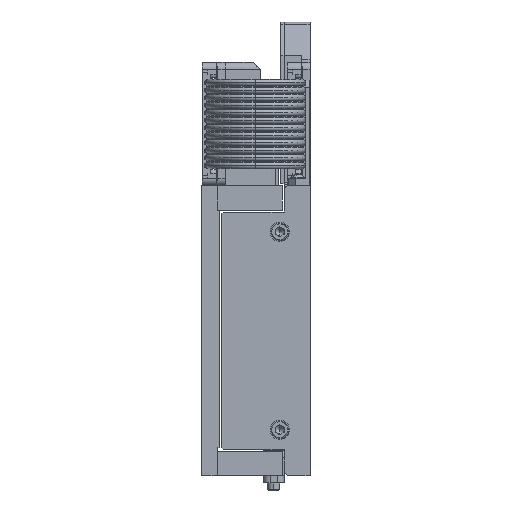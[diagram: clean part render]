
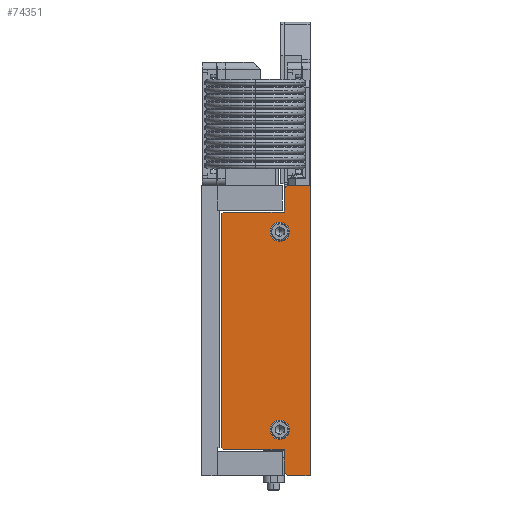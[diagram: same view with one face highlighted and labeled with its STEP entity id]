
A CAD part, left-side view. The second image highlights one B-rep face of the part: STEP entity #74351.
In plain terms, the highlighted planar face has unit normal (-1, 0, 0).
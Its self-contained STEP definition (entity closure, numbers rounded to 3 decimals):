
#707 = CARTESIAN_POINT ( 'NONE',  ( -165., 15., -80.55 ) ) ;
#1051 = EDGE_CURVE ( 'NONE', #23701, #67752, #44940, .T. ) ;
#2860 = CARTESIAN_POINT ( 'NONE',  ( -165., 15., 80.55 ) ) ;
#3076 = VERTEX_POINT ( 'NONE', #111552 ) ;
#4115 = CARTESIAN_POINT ( 'NONE',  ( -165., 13.05, -82.5 ) ) ;
#4374 = LINE ( 'NONE', #2860, #100761 ) ;
#6446 = VECTOR ( 'NONE', #44857, 1000. ) ;
#6923 = CARTESIAN_POINT ( 'NONE',  ( -165., 17.5, -61.75 ) ) ;
#6931 = CARTESIAN_POINT ( 'NONE',  ( -165., 50.5, -66.5 ) ) ;
#6946 = DIRECTION ( 'NONE',  ( -1., 0., 0. ) ) ;
#10214 = ORIENTED_EDGE ( 'NONE', *, *, #95550, .T. ) ;
#10450 = CARTESIAN_POINT ( 'NONE',  ( -165., 0., 0. ) ) ;
#11279 = VECTOR ( 'NONE', #46676, 1000. ) ;
#12798 = DIRECTION ( 'NONE',  ( 0., -0.707, -0.707 ) ) ;
#13213 = CIRCLE ( 'NONE', #20161, 5.5 ) ;
#13731 = EDGE_LOOP ( 'NONE', ( #65224, #106248 ) ) ;
#14161 = VERTEX_POINT ( 'NONE', #58648 ) ;
#15317 = EDGE_CURVE ( 'NONE', #84349, #18123, #27069, .T. ) ;
#16142 = EDGE_LOOP ( 'NONE', ( #10214, #18388, #72839, #93699, #103520, #26671, #83995, #101505, #72241, #16755, #72358, #77679 ) ) ;
#16149 = VERTEX_POINT ( 'NONE', #6923 ) ;
#16239 = CARTESIAN_POINT ( 'NONE',  ( -165., 0.25, -82.5 ) ) ;
#16640 = AXIS2_PLACEMENT_3D ( 'NONE', #10450, #71178, #26471 ) ;
#16755 = ORIENTED_EDGE ( 'NONE', *, *, #66614, .T. ) ;
#17801 = VERTEX_POINT ( 'NONE', #75795 ) ;
#18123 = VERTEX_POINT ( 'NONE', #81709 ) ;
#18388 = ORIENTED_EDGE ( 'NONE', *, *, #75116, .T. ) ;
#19126 = VECTOR ( 'NONE', #94096, 1000. ) ;
#20161 = AXIS2_PLACEMENT_3D ( 'NONE', #33127, #6946, #93911 ) ;
#20751 = EDGE_CURVE ( 'NONE', #56739, #48798, #111192, .T. ) ;
#21845 = LINE ( 'NONE', #16239, #19126 ) ;
#22329 = LINE ( 'NONE', #72948, #48035 ) ;
#22676 = CARTESIAN_POINT ( 'NONE',  ( -165., 15., 80.55 ) ) ;
#23701 = VERTEX_POINT ( 'NONE', #22676 ) ;
#24929 = AXIS2_PLACEMENT_3D ( 'NONE', #88360, #71931, #78858 ) ;
#25510 = DIRECTION ( 'NONE',  ( 0., 0., 1. ) ) ;
#25519 = CIRCLE ( 'NONE', #103224, 5.5 ) ;
#25958 = CIRCLE ( 'NONE', #24929, 5.5 ) ;
#26471 = DIRECTION ( 'NONE',  ( 0., 0., -1. ) ) ;
#26671 = ORIENTED_EDGE ( 'NONE', *, *, #46605, .T. ) ;
#26823 = PLANE ( 'NONE',  #16640 ) ;
#27069 = CIRCLE ( 'NONE', #37507, 5.5 ) ;
#28077 = EDGE_CURVE ( 'NONE', #42207, #68049, #22329, .T. ) ;
#28326 = DIRECTION ( 'NONE',  ( 0., 0.707, -0.707 ) ) ;
#28551 = CARTESIAN_POINT ( 'NONE',  ( -165., 13.05, 82.5 ) ) ;
#30297 = CARTESIAN_POINT ( 'NONE',  ( -165., 13.05, 82.5 ) ) ;
#30325 = VERTEX_POINT ( 'NONE', #34827 ) ;
#30787 = CARTESIAN_POINT ( 'NONE',  ( -165., 17.5, 50.75 ) ) ;
#33127 = CARTESIAN_POINT ( 'NONE',  ( -165., 17.5, -56.25 ) ) ;
#34767 = DIRECTION ( 'NONE',  ( -1., 0., 0. ) ) ;
#34827 = CARTESIAN_POINT ( 'NONE',  ( -165., 0.25, -82.5 ) ) ;
#35009 = EDGE_CURVE ( 'NONE', #18123, #84349, #25958, .T. ) ;
#37507 = AXIS2_PLACEMENT_3D ( 'NONE', #85871, #95768, #25510 ) ;
#38003 = LINE ( 'NONE', #107641, #92442 ) ;
#38369 = CARTESIAN_POINT ( 'NONE',  ( -165., 15., 67.5 ) ) ;
#39974 = FACE_BOUND ( 'NONE', #13731, .T. ) ;
#40109 = LINE ( 'NONE', #85492, #51027 ) ;
#40594 = VECTOR ( 'NONE', #66317, 1000. ) ;
#42207 = VERTEX_POINT ( 'NONE', #97498 ) ;
#44437 = EDGE_CURVE ( 'NONE', #67752, #17801, #40109, .T. ) ;
#44857 = DIRECTION ( 'NONE',  ( 0., 0., 1. ) ) ;
#44940 = LINE ( 'NONE', #77449, #111510 ) ;
#46204 = EDGE_CURVE ( 'NONE', #14161, #87374, #38003, .T. ) ;
#46605 = EDGE_CURVE ( 'NONE', #17801, #56739, #51523, .T. ) ;
#46676 = DIRECTION ( 'NONE',  ( 0., 1., 0. ) ) ;
#47654 = DIRECTION ( 'NONE',  ( 0., -1., 0. ) ) ;
#48035 = VECTOR ( 'NONE', #88988, 1000. ) ;
#48798 = VERTEX_POINT ( 'NONE', #6931 ) ;
#48839 = VERTEX_POINT ( 'NONE', #50536 ) ;
#50096 = VECTOR ( 'NONE', #54413, 1000. ) ;
#50536 = CARTESIAN_POINT ( 'NONE',  ( -165., 17.5, -50.75 ) ) ;
#51027 = VECTOR ( 'NONE', #89653, 1000. ) ;
#51523 = LINE ( 'NONE', #67811, #40594 ) ;
#53939 = EDGE_CURVE ( 'NONE', #48798, #14161, #90406, .T. ) ;
#54413 = DIRECTION ( 'NONE',  ( 0., 0., -1. ) ) ;
#56739 = VERTEX_POINT ( 'NONE', #103789 ) ;
#58648 = CARTESIAN_POINT ( 'NONE',  ( -165., 49.5, -67.5 ) ) ;
#58762 = DIRECTION ( 'NONE',  ( 0., 0., -1. ) ) ;
#60227 = EDGE_CURVE ( 'NONE', #68049, #30325, #21845, .T. ) ;
#60231 = LINE ( 'NONE', #707, #91601 ) ;
#62756 = ORIENTED_EDGE ( 'NONE', *, *, #15317, .F. ) ;
#62779 = EDGE_CURVE ( 'NONE', #48839, #16149, #13213, .T. ) ;
#63124 = FACE_OUTER_BOUND ( 'NONE', #16142, .T. ) ;
#64801 = CARTESIAN_POINT ( 'NONE',  ( -165., 49.5, -67.5 ) ) ;
#65224 = ORIENTED_EDGE ( 'NONE', *, *, #62779, .F. ) ;
#66317 = DIRECTION ( 'NONE',  ( 0., 0.707, -0.707 ) ) ;
#66614 = EDGE_CURVE ( 'NONE', #87374, #42207, #60231, .T. ) ;
#67752 = VERTEX_POINT ( 'NONE', #38369 ) ;
#67811 = CARTESIAN_POINT ( 'NONE',  ( -165., 50.5, 66.5 ) ) ;
#68049 = VERTEX_POINT ( 'NONE', #4115 ) ;
#71178 = DIRECTION ( 'NONE',  ( 1., 0., 0. ) ) ;
#71842 = CARTESIAN_POINT ( 'NONE',  ( -165., 0.25, 82.5 ) ) ;
#71931 = DIRECTION ( 'NONE',  ( -1., 0., 0. ) ) ;
#72241 = ORIENTED_EDGE ( 'NONE', *, *, #46204, .T. ) ;
#72358 = ORIENTED_EDGE ( 'NONE', *, *, #28077, .T. ) ;
#72839 = ORIENTED_EDGE ( 'NONE', *, *, #107482, .T. ) ;
#72948 = CARTESIAN_POINT ( 'NONE',  ( -165., 13.05, -82.5 ) ) ;
#73244 = DIRECTION ( 'NONE',  ( 0., 0., -1. ) ) ;
#74351 = ADVANCED_FACE ( 'NONE', ( #39974, #102411, #63124 ), #26823, .F. ) ;
#75116 = EDGE_CURVE ( 'NONE', #3076, #78557, #96954, .T. ) ;
#75732 = LINE ( 'NONE', #71842, #6446 ) ;
#75795 = CARTESIAN_POINT ( 'NONE',  ( -165., 49.5, 67.5 ) ) ;
#77449 = CARTESIAN_POINT ( 'NONE',  ( -165., 15., 67.5 ) ) ;
#77679 = ORIENTED_EDGE ( 'NONE', *, *, #60227, .T. ) ;
#78557 = VERTEX_POINT ( 'NONE', #30297 ) ;
#78858 = DIRECTION ( 'NONE',  ( 0., 0., 1. ) ) ;
#81709 = CARTESIAN_POINT ( 'NONE',  ( -165., 17.5, 61.75 ) ) ;
#83995 = ORIENTED_EDGE ( 'NONE', *, *, #20751, .T. ) ;
#84349 = VERTEX_POINT ( 'NONE', #30787 ) ;
#84406 = ORIENTED_EDGE ( 'NONE', *, *, #35009, .F. ) ;
#85492 = CARTESIAN_POINT ( 'NONE',  ( -165., 49.5, 67.5 ) ) ;
#85871 = CARTESIAN_POINT ( 'NONE',  ( -165., 17.5, 56.25 ) ) ;
#86229 = VECTOR ( 'NONE', #12798, 1000. ) ;
#86831 = CARTESIAN_POINT ( 'NONE',  ( -165., 17.5, -56.25 ) ) ;
#87374 = VERTEX_POINT ( 'NONE', #91575 ) ;
#88360 = CARTESIAN_POINT ( 'NONE',  ( -165., 17.5, 56.25 ) ) ;
#88652 = CARTESIAN_POINT ( 'NONE',  ( -165., 50.5, -66.5 ) ) ;
#88988 = DIRECTION ( 'NONE',  ( 0., -0.707, -0.707 ) ) ;
#89653 = DIRECTION ( 'NONE',  ( 0., 1., 0. ) ) ;
#90406 = LINE ( 'NONE', #64801, #86229 ) ;
#91575 = CARTESIAN_POINT ( 'NONE',  ( -165., 15., -67.5 ) ) ;
#91601 = VECTOR ( 'NONE', #73244, 1000. ) ;
#92442 = VECTOR ( 'NONE', #47654, 1000. ) ;
#93699 = ORIENTED_EDGE ( 'NONE', *, *, #1051, .T. ) ;
#93911 = DIRECTION ( 'NONE',  ( 0., 0., 1. ) ) ;
#94096 = DIRECTION ( 'NONE',  ( 0., -1., 0. ) ) ;
#95550 = EDGE_CURVE ( 'NONE', #30325, #3076, #75732, .T. ) ;
#95566 = DIRECTION ( 'NONE',  ( 0., 0., 1. ) ) ;
#95768 = DIRECTION ( 'NONE',  ( -1., 0., 0. ) ) ;
#96954 = LINE ( 'NONE', #28551, #11279 ) ;
#97498 = CARTESIAN_POINT ( 'NONE',  ( -165., 15., -80.55 ) ) ;
#100761 = VECTOR ( 'NONE', #28326, 1000. ) ;
#101505 = ORIENTED_EDGE ( 'NONE', *, *, #53939, .T. ) ;
#102411 = FACE_BOUND ( 'NONE', #104637, .T. ) ;
#103224 = AXIS2_PLACEMENT_3D ( 'NONE', #86831, #34767, #95566 ) ;
#103520 = ORIENTED_EDGE ( 'NONE', *, *, #44437, .T. ) ;
#103789 = CARTESIAN_POINT ( 'NONE',  ( -165., 50.5, 66.5 ) ) ;
#104637 = EDGE_LOOP ( 'NONE', ( #84406, #62756 ) ) ;
#106248 = ORIENTED_EDGE ( 'NONE', *, *, #109801, .F. ) ;
#107482 = EDGE_CURVE ( 'NONE', #78557, #23701, #4374, .T. ) ;
#107641 = CARTESIAN_POINT ( 'NONE',  ( -165., 15., -67.5 ) ) ;
#109801 = EDGE_CURVE ( 'NONE', #16149, #48839, #25519, .T. ) ;
#111192 = LINE ( 'NONE', #88652, #50096 ) ;
#111510 = VECTOR ( 'NONE', #58762, 1000. ) ;
#111552 = CARTESIAN_POINT ( 'NONE',  ( -165., 0.25, 82.5 ) ) ;
